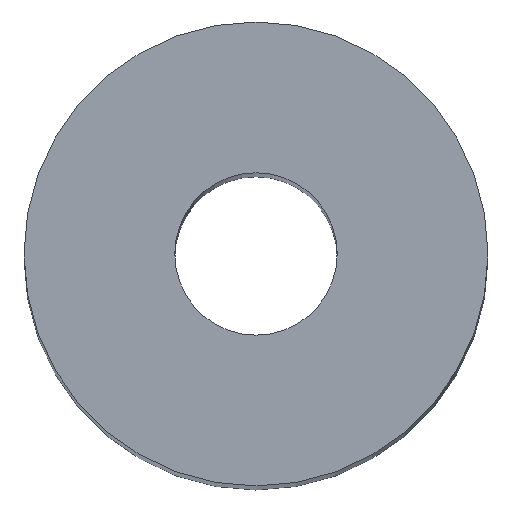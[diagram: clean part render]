
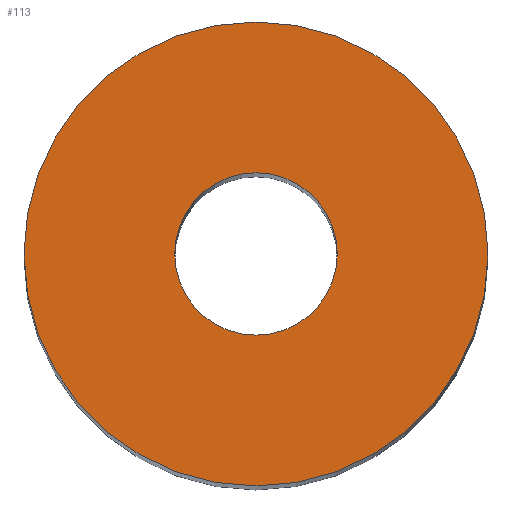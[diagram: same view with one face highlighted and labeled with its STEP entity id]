
A CAD part, top view. The second image highlights one B-rep face of the part: STEP entity #113.
In plain terms, the highlighted planar face has unit normal (0, 0, 1).
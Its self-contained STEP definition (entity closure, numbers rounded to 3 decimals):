
#113=ADVANCED_FACE('',(#121,#122),#119,.T.);
#119=PLANE('',#190);
#121=FACE_BOUND('',#125,.T.);
#122=FACE_BOUND('',#126,.T.);
#125=EDGE_LOOP('',(#133,#134));
#126=EDGE_LOOP('',(#135,#136));
#133=ORIENTED_EDGE('',*,*,#165,.T.);
#134=ORIENTED_EDGE('',*,*,#166,.T.);
#135=ORIENTED_EDGE('',*,*,#167,.F.);
#136=ORIENTED_EDGE('',*,*,#168,.F.);
#157=VERTEX_POINT('',#236);
#158=VERTEX_POINT('',#237);
#159=VERTEX_POINT('',#240);
#160=VERTEX_POINT('',#241);
#165=EDGE_CURVE('',#157,#158,#177,.T.);
#166=EDGE_CURVE('',#158,#157,#178,.T.);
#167=EDGE_CURVE('',#159,#160,#179,.T.);
#168=EDGE_CURVE('',#160,#159,#180,.T.);
#177=CIRCLE('',#186,20.);
#178=CIRCLE('',#187,20.);
#179=CIRCLE('',#188,7.);
#180=CIRCLE('',#189,7.);
#186=AXIS2_PLACEMENT_3D('',#235,#202,#203);
#187=AXIS2_PLACEMENT_3D('',#238,#204,#205);
#188=AXIS2_PLACEMENT_3D('',#239,#206,#207);
#189=AXIS2_PLACEMENT_3D('',#242,#208,#209);
#190=AXIS2_PLACEMENT_3D('',#243,#210,#211);
#202=DIRECTION('',(0.,0.,1.));
#203=DIRECTION('',(0.,1.,0.));
#204=DIRECTION('',(0.,0.,1.));
#205=DIRECTION('',(0.,-1.,0.));
#206=DIRECTION('',(0.,0.,1.));
#207=DIRECTION('',(0.,-1.,0.));
#208=DIRECTION('',(0.,0.,1.));
#209=DIRECTION('',(0.,1.,0.));
#210=DIRECTION('',(0.,0.,1.));
#211=DIRECTION('',(0.,1.,0.));
#235=CARTESIAN_POINT('',(0.,0.,200.));
#236=CARTESIAN_POINT('',(-20.,0.,200.));
#237=CARTESIAN_POINT('',(20.,0.,200.));
#238=CARTESIAN_POINT('',(0.,0.,200.));
#239=CARTESIAN_POINT('',(0.,0.,200.));
#240=CARTESIAN_POINT('',(7.,0.,200.));
#241=CARTESIAN_POINT('',(-7.,0.,200.));
#242=CARTESIAN_POINT('',(0.,0.,200.));
#243=CARTESIAN_POINT('',(0.,0.,200.));
